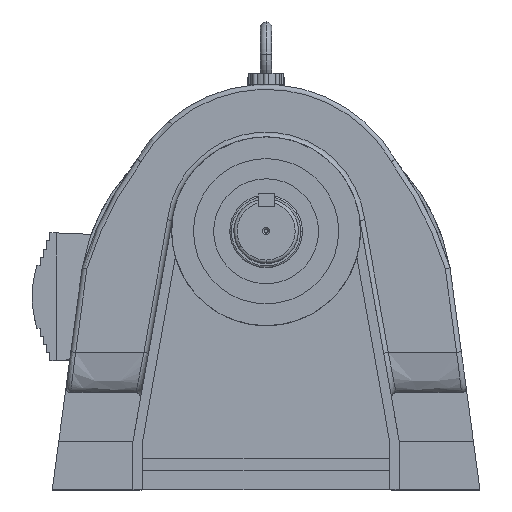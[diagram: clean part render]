
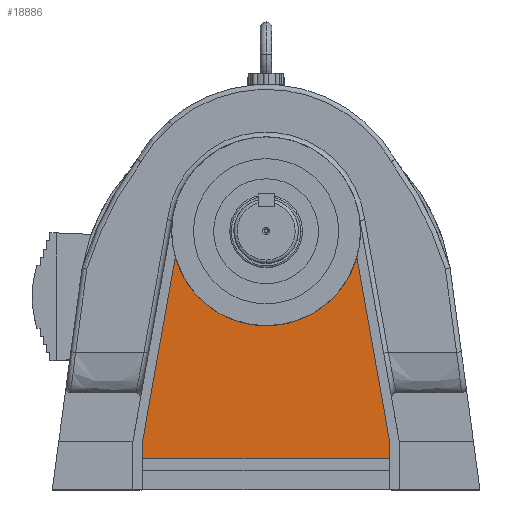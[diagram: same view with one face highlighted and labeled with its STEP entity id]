
A CAD part, top view. The second image highlights one B-rep face of the part: STEP entity #18886.
In plain terms, the highlighted planar face has unit normal (0, 0, 1).
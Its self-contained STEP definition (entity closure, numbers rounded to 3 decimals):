
#1091 = VERTEX_POINT ( 'NONE', #28664 ) ;
#1314 = VECTOR ( 'NONE', #8459, 1000. ) ;
#2471 = DIRECTION ( 'NONE',  ( 1., 0., 0. ) ) ;
#2575 = VERTEX_POINT ( 'NONE', #35996 ) ;
#2753 = ORIENTED_EDGE ( 'NONE', *, *, #29734, .T. ) ;
#2772 = ORIENTED_EDGE ( 'NONE', *, *, #17306, .T. ) ;
#5379 = VERTEX_POINT ( 'NONE', #40607 ) ;
#6068 = CARTESIAN_POINT ( 'NONE',  ( 76.5, 30., 172. ) ) ;
#6540 = CARTESIAN_POINT ( 'NONE',  ( -76.5, 30., 172. ) ) ;
#6646 = ORIENTED_EDGE ( 'NONE', *, *, #12089, .T. ) ;
#7045 = VERTEX_POINT ( 'NONE', #7848 ) ;
#7293 = FACE_OUTER_BOUND ( 'NONE', #15244, .T. ) ;
#7419 = EDGE_CURVE ( 'NONE', #14806, #5379, #36188, .T. ) ;
#7471 = VECTOR ( 'NONE', #32922, 1000. ) ;
#7848 = CARTESIAN_POINT ( 'NONE',  ( -76.5, 19., 172. ) ) ;
#8064 = ORIENTED_EDGE ( 'NONE', *, *, #10328, .T. ) ;
#8459 = DIRECTION ( 'NONE',  ( 1., 0., 0. ) ) ;
#10328 = EDGE_CURVE ( 'NONE', #2575, #14806, #24808, .T. ) ;
#10709 = VECTOR ( 'NONE', #46465, 1000. ) ;
#11226 = LINE ( 'NONE', #30785, #1314 ) ;
#11891 = LINE ( 'NONE', #27898, #10709 ) ;
#12089 = EDGE_CURVE ( 'NONE', #7045, #2575, #11226, .T. ) ;
#13049 = DIRECTION ( 'NONE',  ( -0.175, 0.985, 0. ) ) ;
#14806 = VERTEX_POINT ( 'NONE', #6068 ) ;
#15244 = EDGE_LOOP ( 'NONE', ( #8064, #30977, #2753, #37987, #2772, #6646 ) ) ;
#17306 = EDGE_CURVE ( 'NONE', #1091, #7045, #36019, .T. ) ;
#17951 = DIRECTION ( 'NONE',  ( 0., 0., -1. ) ) ;
#18886 = ADVANCED_FACE ( 'NONE', ( #7293 ), #20843, .T. ) ;
#20843 = PLANE ( 'NONE',  #33705 ) ;
#21009 = CARTESIAN_POINT ( 'NONE',  ( 0., 160., 172. ) ) ;
#21572 = AXIS2_PLACEMENT_3D ( 'NONE', #40308, #17951, #44064 ) ;
#22133 = EDGE_CURVE ( 'NONE', #38809, #1091, #11891, .T. ) ;
#22334 = CARTESIAN_POINT ( 'NONE',  ( 76.5, 30., 172. ) ) ;
#23639 = VECTOR ( 'NONE', #26087, 1000. ) ;
#24755 = DIRECTION ( 'NONE',  ( 0., 0., 1. ) ) ;
#24808 = LINE ( 'NONE', #22334, #23639 ) ;
#26087 = DIRECTION ( 'NONE',  ( 0., 1., 0. ) ) ;
#27344 = CIRCLE ( 'NONE', #21572, 58.5 ) ;
#27898 = CARTESIAN_POINT ( 'NONE',  ( -56.261, 143.972, 172. ) ) ;
#28664 = CARTESIAN_POINT ( 'NONE',  ( -76.5, 30., 172. ) ) ;
#29734 = EDGE_CURVE ( 'NONE', #5379, #38809, #27344, .T. ) ;
#30184 = CARTESIAN_POINT ( 'NONE',  ( -56.261, 143.972, 172. ) ) ;
#30785 = CARTESIAN_POINT ( 'NONE',  ( 0., 19., 172. ) ) ;
#30977 = ORIENTED_EDGE ( 'NONE', *, *, #7419, .T. ) ;
#32922 = DIRECTION ( 'NONE',  ( 0., -1., 0. ) ) ;
#33705 = AXIS2_PLACEMENT_3D ( 'NONE', #21009, #24755, #2471 ) ;
#35996 = CARTESIAN_POINT ( 'NONE',  ( 76.5, 19., 172. ) ) ;
#36019 = LINE ( 'NONE', #6540, #7471 ) ;
#36188 = LINE ( 'NONE', #39087, #46077 ) ;
#37987 = ORIENTED_EDGE ( 'NONE', *, *, #22133, .T. ) ;
#38809 = VERTEX_POINT ( 'NONE', #30184 ) ;
#39087 = CARTESIAN_POINT ( 'NONE',  ( 76.5, 30., 172. ) ) ;
#40308 = CARTESIAN_POINT ( 'NONE',  ( 0., 160., 172. ) ) ;
#40607 = CARTESIAN_POINT ( 'NONE',  ( 56.261, 143.972, 172. ) ) ;
#44064 = DIRECTION ( 'NONE',  ( 1., 0., 0. ) ) ;
#46077 = VECTOR ( 'NONE', #13049, 1000. ) ;
#46465 = DIRECTION ( 'NONE',  ( -0.175, -0.985, 0. ) ) ;
